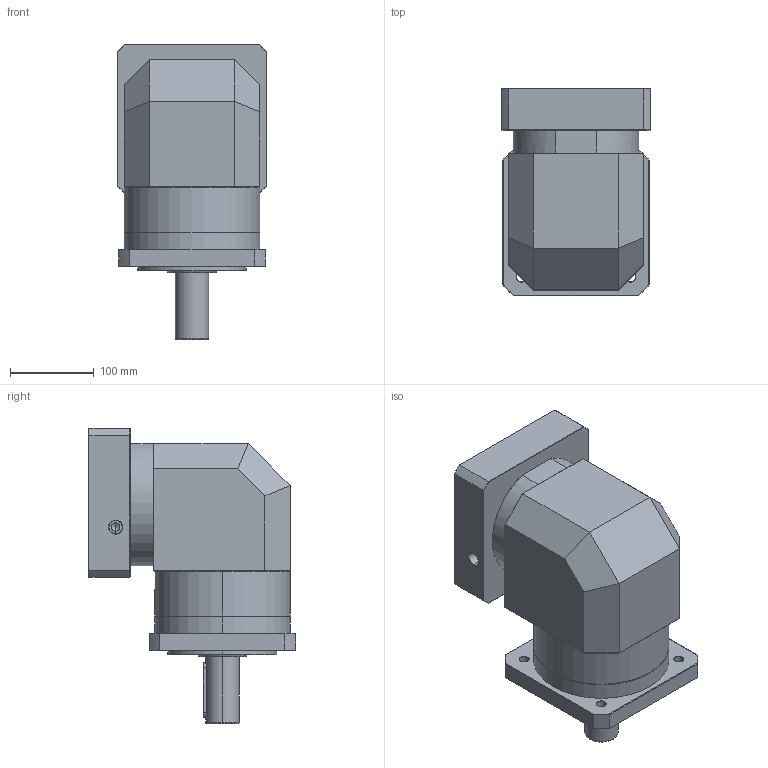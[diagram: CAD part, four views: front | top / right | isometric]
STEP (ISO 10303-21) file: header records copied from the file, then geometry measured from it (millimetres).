
FILE_DESCRIPTION (( 'STEP AP214' ), '1' );
FILE_NAME ('ZFR160A-D40-L1-P2-35-114.3-200-M12.step', '2023-09-03T08:57:18', ( '' ), ( '' ), 'SwSTEP 2.0', 'SolidWorks 2016', '' );
FILE_SCHEMA (( 'AUTOMOTIVE_DESIGN' ));
Length unit declared in the file: millimetre
Products named in the file (1): ZFR160A-D40-L1-P2-35-114.3-200-M12
Bounding box: 178 x 247.5 x 352.7 mm (x, y, z)
Volume: 7098633.1 mm3; surface area: 466296.8 mm2
Topology: 6 solids, 6 shells, 2192 faces, 5797 edges, 3713 vertices
Faces by surface type: plane 1046, bspline 410, cylinder 404, cone 310, torus 22
Entity records: 124849 total; most frequent: CARTESIAN_POINT 51744, ORIENTED_EDGE 11534, DIRECTION 8359, EDGE_CURVE 5767, VERTEX_POINT 3713, VECTOR 3085, LINE 3085, AXIS2_PLACEMENT_3D 2637
